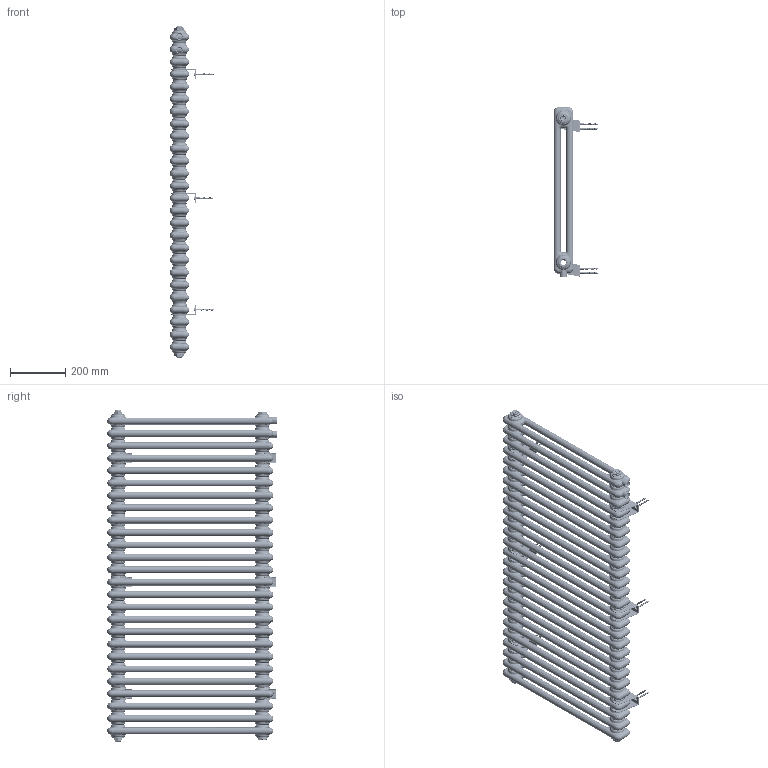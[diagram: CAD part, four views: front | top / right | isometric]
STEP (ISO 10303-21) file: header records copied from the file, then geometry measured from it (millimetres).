
FILE_DESCRIPTION(/* description */ (''),/* implementation_level */ '2;1');
FILE_NAME(/* name */ 'CL02 600x1190 D50',/* time_stamp */ '2023-09-09T12:49:32+08:00',/* author */ (''),/* organization */ (''),/* preprocessor_version */ 'ST-DEVELOPER v9',/* originating_system */ 'UGS - NX 4.0',/* authorisation */ '');
FILE_SCHEMA (('CONFIG_CONTROL_DESIGN'));
Length unit declared in the file: millimetre
Products named in the file (1): AdmiF21Fozbo
Bounding box: 161.6 x 616 x 1202 mm (x, y, z)
Volume: 3748661.3 mm3; surface area: 4953077.8 mm2
Topology: 53 solids, 53 shells, 7777 faces, 18735 edges, 11029 vertices
Faces by surface type: bspline 2411, plane 1608, cylinder 1587, torus 1484, cone 687
Full cylindrical faces by diameter (mm): 19 x2, 25 x2
Entity records: 494998 total; most frequent: CARTESIAN_POINT 330956, ORIENTED_EDGE 37418, DIRECTION 30761, EDGE_CURVE 18709, AXIS2_PLACEMENT_3D 13153, VERTEX_POINT 11031, EDGE_LOOP 8068, CIRCLE 7786
